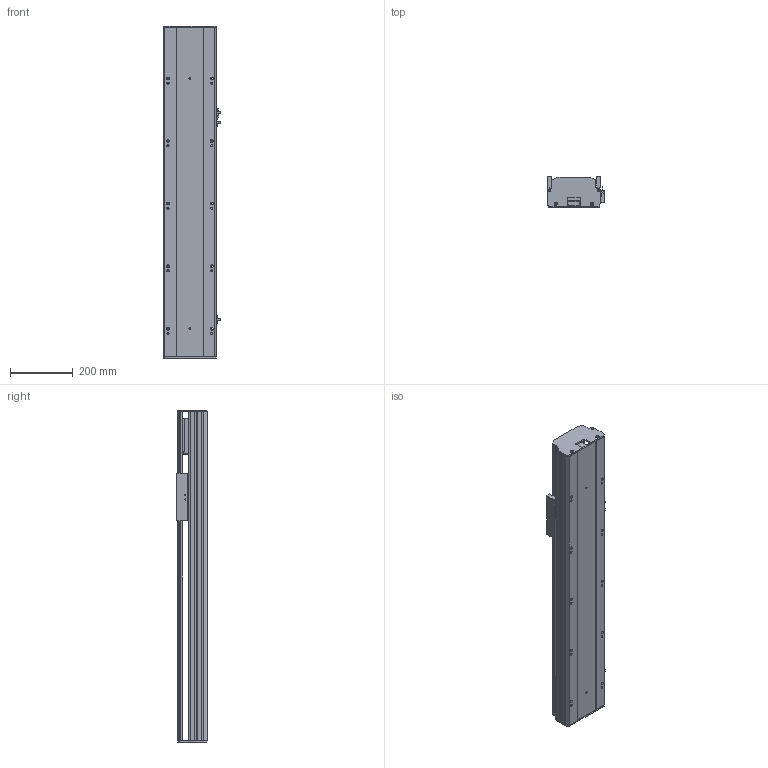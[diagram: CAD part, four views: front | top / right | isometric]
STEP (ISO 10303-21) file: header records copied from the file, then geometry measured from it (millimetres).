
FILE_DESCRIPTION (( 'STEP AP203' ), '1' );
FILE_NAME ('Y170-D10-S650-M-P400W.STEP', '2020-01-22T12:45:03', ( '微软用户' ), ( '微软中国' ), 'SwSTEP 2.0', 'SolidWorks 2017', '' );
FILE_SCHEMA (( 'CONFIG_CONTROL_DESIGN' ));
Length unit declared in the file: millimetre
Products named in the file (10): Y170-陔遴奻裔-M; YD-Y100-135-新外置传感挡片(通用）; Y170-D10-S650-M-P400W; Y100-135俋离換覜ん; 135-盓傅釱-FK15; Y170耜裔--準---; Y170--雄赽釱-梓--; 170--掛极-M; Y170耜裔--準---M; san松下电机400不带刹车----
Assembly tree (11 placements, depth 2):
  Y170-D10-S650-M-P400W
    YD-Y100-135-新外置传感挡片(通用）
    Y100-135俋离換覜ん  x3
    135-盓傅釱-FK15
    Y170耜裔--準---
    Y170--雄赽釱-梓--
    170--掛极-M
    Y170耜裔--準---M
    san松下电机400不带刹车----
    Y170-陔遴奻裔-M
Bounding box: 183.5 x 97 x 1061 mm (x, y, z)
Volume: 4740607.7 mm3; surface area: 1655874.6 mm2
Topology: 11 solids, 11 shells, 773 faces, 2180 edges, 1444 vertices
Faces by surface type: cylinder 387, plane 384, torus 2
Entity records: 24860 total; most frequent: CARTESIAN_POINT 4377, DIRECTION 4142, ORIENTED_EDGE 4024, EDGE_CURVE 2012, AXIS2_PLACEMENT_3D 1465, VERTEX_POINT 1332, LINE 1212, VECTOR 1212
